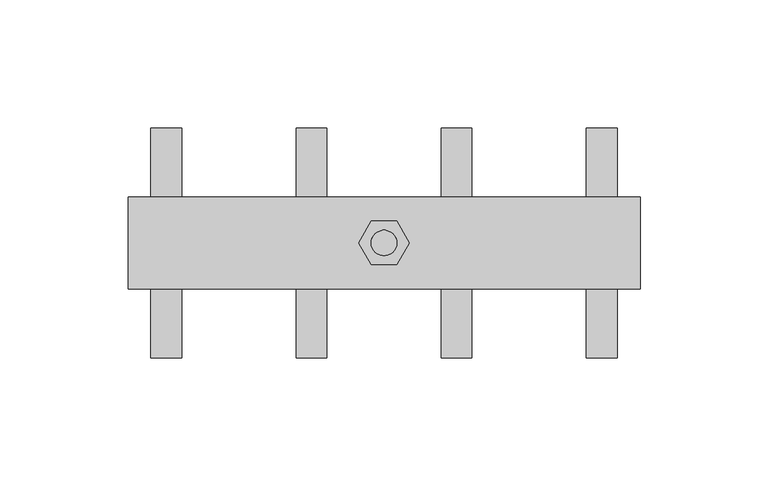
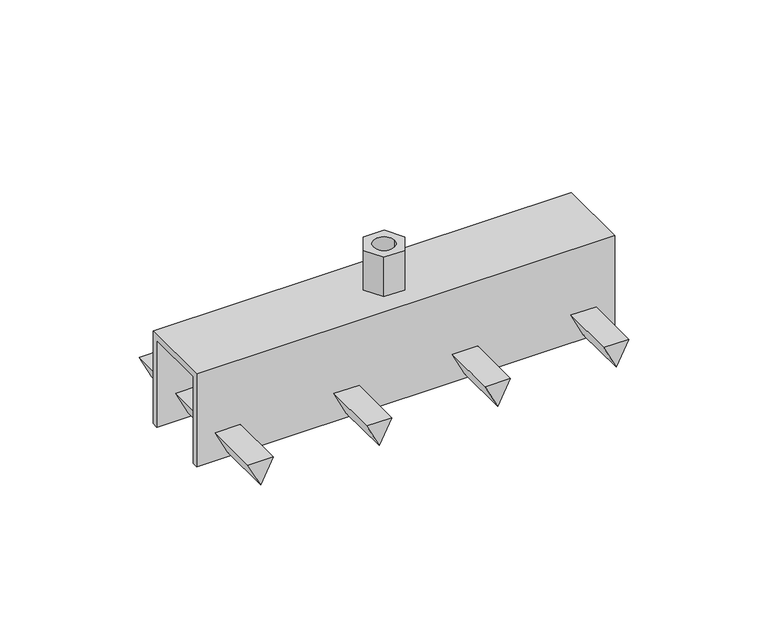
"""IFC4 building model written with IfcOpenShell, lengths in millimetres: unitary equipment geometry, NLRS_52_ME_FB_Geberit Pluvia verbindingselement_PRO_103899 : 362.864.26.1 Geberit Pluvia verbindingselement."""

from ifc_helpers import new_model, si_unit, frame, origin, place, context, project, spatial, polyline, circle_curve, source, transform, mapped, element, save
from ifc_brep_helpers import plane_surface, revolved_surface, advanced_brep


def unitary_equipment_421f79eb(model_context):
    return source(origin(), model_context, "Body", "AdvancedBrep", [
        advanced_brep(
        [(-100.0, -18.0, 3.0), (-100.0, 18.0, 3.0), (-100.0, 18.0, -44.0), (-100.0, 15.0, -44.0), (-100.0, 15.0, 0.0), (-100.0, -15.0, 0.0), (-100.0, -15.0, -44.0), (-100.0, -18.0, -44.0), (100.0, -18.0, 3.0), (100.0, -18.0, -44.0), (100.0, -15.0, -44.0), (100.0, -15.0, 0.0), (100.0, 15.0, 0.0), (100.0, 15.0, -44.0), (100.0, 18.0, -44.0), (100.0, 18.0, 3.0), (-91.05, -18.0, -30.0), (-79.05, -18.0, -30.0), (-85.05, -18.0, -42.0), (-34.35, -18.0, -30.0), (-22.35, -18.0, -30.0), (-28.35, -18.0, -42.0), (22.35, -18.0, -30.0), (34.35, -18.0, -30.0), (28.35, -18.0, -42.0), (79.05, -18.0, -30.0), (91.05, -18.0, -30.0), (85.05, -18.0, -42.0), (-79.05, 18.0, -30.0), (-91.05, 18.0, -30.0), (-85.05, 18.0, -42.0), (-22.35, 18.0, -30.0), (-34.35, 18.0, -30.0), (-28.35, 18.0, -42.0), (34.35, 18.0, -30.0), (22.35, 18.0, -30.0), (28.35, 18.0, -42.0), (91.05, 18.0, -30.0), (79.05, 18.0, -30.0), (85.05, 18.0, -42.0), (9.8149546, 0.0, 3.0), (4.9074773, -8.5, 3.0), (-4.9074773, -8.5, 3.0), (-9.8149546, 0.0, 3.0), (-4.9074773, 8.5, 3.0), (4.9074773, 8.5, 3.0), (5.0, 0.0, 3.0), (-5.0, 0.0, 3.0), (-91.05, 15.0, -30.0), (-79.05, 15.0, -30.0), (-85.05, 15.0, -42.0), (-34.35, 15.0, -30.0), (-22.35, 15.0, -30.0), (-28.35, 15.0, -42.0), (22.35, 15.0, -30.0), (34.35, 15.0, -30.0), (28.35, 15.0, -42.0), (79.05, 15.0, -30.0), (91.05, 15.0, -30.0), (85.05, 15.0, -42.0), (-79.05, -15.0, -30.0), (-91.05, -15.0, -30.0), (-85.05, -15.0, -42.0), (-22.35, -15.0, -30.0), (-34.35, -15.0, -30.0), (-28.35, -15.0, -42.0), (34.35, -15.0, -30.0), (22.35, -15.0, -30.0), (28.35, -15.0, -42.0), (91.05, -15.0, -30.0), (79.05, -15.0, -30.0), (85.05, -15.0, -42.0), (9.8149546, 0.0, 23.0), (4.9074773, 8.5, 23.0), (-4.9074773, 8.5, 23.0), (-9.8149546, 0.0, 23.0), (-4.9074773, -8.5, 23.0), (4.9074773, -8.5, 23.0), (5.0, 0.0, 23.0), (-5.0, 0.0, 23.0), (-91.05, 45.0, -30.0), (-79.05, 45.0, -30.0), (-85.05, 45.0, -42.0), (-34.35, 45.0, -30.0), (-22.35, 45.0, -30.0), (-28.35, 45.0, -42.0), (22.35, 45.0, -30.0), (34.35, 45.0, -30.0), (28.35, 45.0, -42.0), (79.05, 45.0, -30.0), (91.05, 45.0, -30.0), (85.05, 45.0, -42.0), (-91.05, -45.0, -30.0), (-85.05, -45.0, -42.0), (-79.05, -45.0, -30.0), (-34.35, -45.0, -30.0), (-28.35, -45.0, -42.0), (-22.35, -45.0, -30.0), (22.35, -45.0, -30.0), (28.35, -45.0, -42.0), (34.35, -45.0, -30.0), (79.05, -45.0, -30.0), (85.05, -45.0, -42.0), (91.05, -45.0, -30.0)],
        [
            (0, 1),
            (1, 2),
            (2, 3),
            (3, 4),
            (4, 5),
            (5, 6),
            (6, 7),
            (7, 0),
            (8, 9),
            (9, 10),
            (10, 11),
            (11, 12),
            (12, 13),
            (13, 14),
            (14, 15),
            (15, 8),
            (7, 9),
            (8, 0),
            (16, 17),
            (17, 18),
            (18, 16),
            (19, 20),
            (20, 21),
            (21, 19),
            (22, 23),
            (23, 24),
            (24, 22),
            (25, 26),
            (26, 27),
            (27, 25),
            (2, 14),
            (13, 3),
            (1, 15),
            (28, 29),
            (29, 30),
            (30, 28),
            (31, 32),
            (32, 33),
            (33, 31),
            (34, 35),
            (35, 36),
            (36, 34),
            (37, 38),
            (38, 39),
            (39, 37),
            (40, 41),
            (41, 42),
            (42, 43),
            (43, 44),
            (44, 45),
            (45, 40),
            (46, 47, circle_curve(frame((0.0, 0.0, 3.0), z_axis=(0.0, 0.0, 1.0), x_axis=(-1.0, 0.0, 0.0)), 5.0)),
            (47, 46, circle_curve(frame((0.0, 0.0, 3.0), z_axis=(0.0, 0.0, 1.0), x_axis=(-1.0, 0.0, 0.0)), 5.0)),
            (12, 4),
            (48, 49),
            (49, 50),
            (50, 48),
            (51, 52),
            (52, 53),
            (53, 51),
            (54, 55),
            (55, 56),
            (56, 54),
            (57, 58),
            (58, 59),
            (59, 57),
            (5, 11),
            (10, 6),
            (60, 61),
            (61, 62),
            (62, 60),
            (63, 64),
            (64, 65),
            (65, 63),
            (66, 67),
            (67, 68),
            (68, 66),
            (69, 70),
            (70, 71),
            (71, 69),
            (72, 73),
            (73, 74),
            (74, 75),
            (75, 76),
            (76, 77),
            (77, 72),
            (78, 79, circle_curve(frame((0.0, 0.0, 23.0), z_axis=(0.0, 0.0, -1.0), x_axis=(-1.0, 0.0, 0.0)), 5.0)),
            (79, 78, circle_curve(frame((0.0, 0.0, 23.0), z_axis=(0.0, 0.0, -1.0), x_axis=(-1.0, 0.0, 0.0)), 5.0)),
            (77, 41),
            (40, 72),
            (76, 42),
            (75, 43),
            (74, 44),
            (73, 45),
            (79, 47),
            (46, 78),
            (80, 81),
            (81, 82),
            (82, 80),
            (83, 84),
            (84, 85),
            (85, 83),
            (86, 87),
            (87, 88),
            (88, 86),
            (89, 90),
            (90, 91),
            (91, 89),
            (92, 93),
            (93, 94),
            (94, 92),
            (95, 96),
            (96, 97),
            (97, 95),
            (98, 99),
            (99, 100),
            (100, 98),
            (101, 102),
            (102, 103),
            (103, 101),
            (80, 29),
            (28, 81),
            (94, 17),
            (16, 92),
            (48, 61),
            (60, 49),
            (30, 82),
            (93, 18),
            (62, 50),
            (83, 32),
            (31, 84),
            (97, 20),
            (19, 95),
            (51, 64),
            (63, 52),
            (33, 85),
            (96, 21),
            (65, 53),
            (86, 35),
            (34, 87),
            (100, 23),
            (22, 98),
            (54, 67),
            (66, 55),
            (36, 88),
            (99, 24),
            (68, 56),
            (89, 38),
            (37, 90),
            (103, 26),
            (25, 101),
            (57, 70),
            (69, 58),
            (39, 91),
            (102, 27),
            (71, 59),
        ],
        [
            plane_surface(frame((-100.0, 0.0, 0.0), z_axis=(-1.0, 0.0, 0.0), x_axis=(0.0, 0.0, 1.0))),
            plane_surface(frame((100.0, 0.0, 0.0), z_axis=(1.0, 0.0, 0.0), x_axis=(0.0, 0.0, 1.0))),
            plane_surface(frame((-100.0, -18.0, -44.0), z_axis=(0.0, -1.0, 0.0), x_axis=(1.0, 0.0, 0.0))),
            plane_surface(frame((-100.0, 18.0, -44.0), z_axis=(0.0, 0.0, -1.0), x_axis=(1.0, 0.0, 0.0))),
            plane_surface(frame((-100.0, 18.0, 3.0), z_axis=(0.0, 1.0, 0.0), x_axis=(1.0, 0.0, 0.0))),
            plane_surface(frame((-100.0, -18.0, 3.0), z_axis=(0.0, 0.0, 1.0), x_axis=(1.0, 0.0, 0.0))),
            plane_surface(frame((-100.0, 15.0, -44.0), z_axis=(0.0, -1.0, 0.0), x_axis=(1.0, 0.0, 0.0))),
            plane_surface(frame((-100.0, -15.0, 0.0), z_axis=(0.0, 1.0, 0.0), x_axis=(1.0, 0.0, 0.0))),
            plane_surface(frame((-100.0, 15.0, 0.0), z_axis=(0.0, 0.0, -1.0), x_axis=(1.0, 0.0, 0.0))),
            plane_surface(frame((-100.0, -15.0, -44.0), z_axis=(0.0, 0.0, -1.0), x_axis=(1.0, 0.0, 0.0))),
            plane_surface(frame((0.0, 0.0, 23.0), z_axis=(0.0, 0.0, 1.0), x_axis=(0.0, -1.0, 0.0))),
            plane_surface(frame((9.8149546, 0.0, 3.0), z_axis=(0.8660254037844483, -0.4999999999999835, 0.0), x_axis=(0.0, 0.0, 1.0))),
            plane_surface(frame((4.9074773, -8.5, 3.0), z_axis=(0.0, -1.0, 0.0), x_axis=(0.0, 0.0, 1.0))),
            plane_surface(frame((-4.9074773, -8.5, 3.0), z_axis=(-0.8660254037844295, -0.500000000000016, 0.0), x_axis=(0.0, 0.0, 1.0))),
            plane_surface(frame((-9.8149546, 0.0, 3.0), z_axis=(-0.8660254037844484, 0.4999999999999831, 0.0), x_axis=(0.0, 0.0, 1.0))),
            plane_surface(frame((-4.9074773, 8.5, 3.0), z_axis=(0.0, 1.0, 0.0), x_axis=(0.0, 0.0, 1.0))),
            plane_surface(frame((4.9074773, 8.5, 3.0), z_axis=(0.8660254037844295, 0.500000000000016, 0.0), x_axis=(0.0, 0.0, 1.0))),
            revolved_surface(polyline([(-5.0, 0.0, 23.0), (-5.0, 0.0, 3.0)]), (0.0, 0.0, 3.0), (0.0, 0.0, 1.0)),
            plane_surface(frame((0.0, 45.0, 0.0), z_axis=(0.0, 1.0, 0.0), x_axis=(0.0, 0.0, 1.0))),
            plane_surface(frame((0.0, -45.0, 0.0), z_axis=(0.0, -1.0, 0.0), x_axis=(0.0, 0.0, 1.0))),
            plane_surface(frame((-91.05, 45.0, -30.0), z_axis=(0.0, 0.0, 1.0), x_axis=(0.0, -1.0, 0.0))),
            plane_surface(frame((-79.05, 45.0, -30.0), z_axis=(0.8944271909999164, 0.0, -0.4472135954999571), x_axis=(0.0, -1.0, 0.0))),
            plane_surface(frame((-85.05, 45.0, -42.0), z_axis=(-0.8944271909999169, 0.0, -0.4472135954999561), x_axis=(0.0, -1.0, 0.0))),
            plane_surface(frame((-34.35, 45.0, -30.0), z_axis=(0.0, 0.0, 1.0), x_axis=(0.0, -1.0, 0.0))),
            plane_surface(frame((-22.35, 45.0, -30.0), z_axis=(0.8944271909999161, 0.0, -0.4472135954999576), x_axis=(0.0, -1.0, 0.0))),
            plane_surface(frame((-28.35, 45.0, -42.0), z_axis=(-0.894427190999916, 0.0, -0.4472135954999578), x_axis=(0.0, -1.0, 0.0))),
            plane_surface(frame((22.35, 45.0, -30.0), z_axis=(0.0, 0.0, 1.0), x_axis=(0.0, -1.0, 0.0))),
            plane_surface(frame((34.35, 45.0, -30.0), z_axis=(0.8944271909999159, 0.0, -0.4472135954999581), x_axis=(0.0, -1.0, 0.0))),
            plane_surface(frame((28.35, 45.0, -42.0), z_axis=(-0.8944271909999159, 0.0, -0.4472135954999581), x_axis=(0.0, -1.0, 0.0))),
            plane_surface(frame((79.05, 45.0, -30.0), z_axis=(0.0, 0.0, 1.0), x_axis=(0.0, -1.0, 0.0))),
            plane_surface(frame((91.05, 45.0, -30.0), z_axis=(0.8944271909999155, 0.0, -0.44721359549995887), x_axis=(0.0, -1.0, 0.0))),
            plane_surface(frame((85.05, 45.0, -42.0), z_axis=(-0.8944271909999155, 0.0, -0.44721359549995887), x_axis=(0.0, -1.0, 0.0))),
        ],
        [
            (0, [[1, 2, 3, 4, 5, 6, 7, 8]]),
            (1, [[9, 10, 11, 12, 13, 14, 15, 16]]),
            (2, [[-8, 17, -9, 18], [19, 20, 21], [22, 23, 24], [25, 26, 27], [28, 29, 30]]),
            (3, [[-3, 31, -14, 32]]),
            (4, [[-2, 33, -15, -31], [34, 35, 36], [37, 38, 39], [40, 41, 42], [43, 44, 45]]),
            (5, [[-1, -18, -16, -33], [46, 47, 48, 49, 50, 51]]),
            (5, [[52, 53]]),
            (6, [[-4, -32, -13, 54], [55, 56, 57], [58, 59, 60], [61, 62, 63], [64, 65, 66]]),
            (7, [[-6, 67, -11, 68], [69, 70, 71], [72, 73, 74], [75, 76, 77], [78, 79, 80]]),
            (8, [[-5, -54, -12, -67]]),
            (9, [[-7, -68, -10, -17]]),
            (10, [[81, 82, 83, 84, 85, 86], [87, 88]]),
            (11, [[-86, 89, -46, 90]]),
            (12, [[-85, 91, -47, -89]]),
            (13, [[-84, 92, -48, -91]]),
            (14, [[-83, 93, -49, -92]]),
            (15, [[-82, 94, -50, -93]]),
            (16, [[-81, -90, -51, -94]]),
            (17, [[-88, 95, -52, 96]]),
            (17, [[-87, -96, -53, -95]]),
            (18, [[97, 98, 99]]),
            (18, [[100, 101, 102]]),
            (18, [[103, 104, 105]]),
            (18, [[106, 107, 108]]),
            (19, [[109, 110, 111]]),
            (19, [[112, 113, 114]]),
            (19, [[115, 116, 117]]),
            (19, [[118, 119, 120]]),
            (20, [[-97, 121, -34, 122]]),
            (20, [[-111, 123, -19, 124]]),
            (20, [[125, -69, 126, -55]]),
            (21, [[-98, -122, -36, 127]]),
            (21, [[-110, 128, -20, -123]]),
            (21, [[-126, -71, 129, -56]]),
            (22, [[-99, -127, -35, -121]]),
            (22, [[-109, -124, -21, -128]]),
            (22, [[-125, -57, -129, -70]]),
            (23, [[-100, 130, -37, 131]]),
            (23, [[-114, 132, -22, 133]]),
            (23, [[134, -72, 135, -58]]),
            (24, [[-101, -131, -39, 136]]),
            (24, [[-113, 137, -23, -132]]),
            (24, [[-135, -74, 138, -59]]),
            (25, [[-102, -136, -38, -130]]),
            (25, [[-112, -133, -24, -137]]),
            (25, [[-134, -60, -138, -73]]),
            (26, [[-103, 139, -40, 140]]),
            (26, [[-117, 141, -25, 142]]),
            (26, [[143, -75, 144, -61]]),
            (27, [[-104, -140, -42, 145]]),
            (27, [[-116, 146, -26, -141]]),
            (27, [[-144, -77, 147, -62]]),
            (28, [[-105, -145, -41, -139]]),
            (28, [[-115, -142, -27, -146]]),
            (28, [[-143, -63, -147, -76]]),
            (29, [[-106, 148, -43, 149]]),
            (29, [[-120, 150, -28, 151]]),
            (29, [[152, -78, 153, -64]]),
            (30, [[-107, -149, -45, 154]]),
            (30, [[-119, 155, -29, -150]]),
            (30, [[-153, -80, 156, -65]]),
            (31, [[-108, -154, -44, -148]]),
            (31, [[-118, -151, -30, -155]]),
            (31, [[-152, -66, -156, -79]]),
        ],
    ),
    ])


if __name__ == "__main__":
    model = new_model("IFC4")
    model_context = context("Model", 3, world=origin())
    ifc_project = project(units=[si_unit("LENGTHUNIT", "METRE", prefix="MILLI")], contexts=[model_context])
    site = spatial("IfcSite", under=ifc_project)
    building = spatial("IfcBuilding", under=site)
    placement = place(None, origin())
    unitary_equipment_shape = unitary_equipment_421f79eb(model_context)
    element("IfcUnitaryEquipment", 1, ObjectType="NLRS_52_ME_FB_Geberit Pluvia verbindingselement_PRO_103899 : 362.864.26.1 Geberit Pluvia verbindingselement", at=placement, inside=building, context=model_context, shape_type="MappedRepresentation", body=[
        mapped(unitary_equipment_shape, transform((0.0, 0.0, 0.0), x_axis=(1.0, 0.0, 0.0), y_axis=(0.0, 1.0, 0.0), z_axis=(0.0, 0.0, 1.0))),
    ])
    save(model, "model.ifc")
